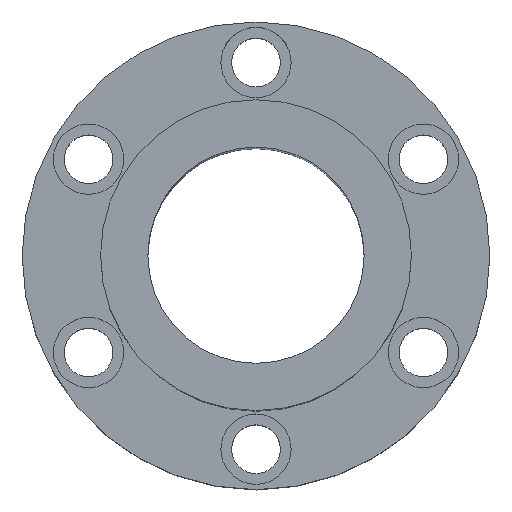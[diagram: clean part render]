
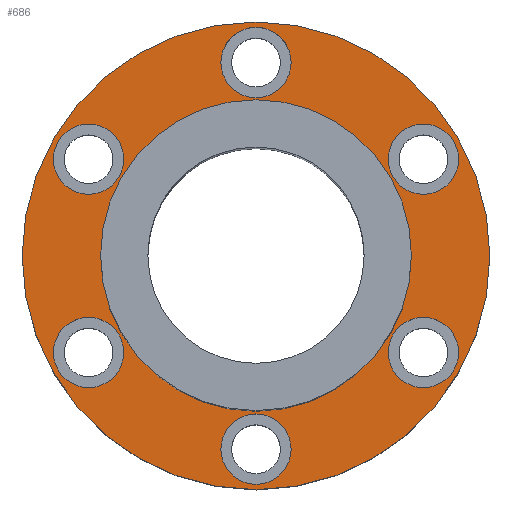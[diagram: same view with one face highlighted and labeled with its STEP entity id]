
A CAD part, top view. The second image highlights one B-rep face of the part: STEP entity #686.
In plain terms, the highlighted planar face has unit normal (0, 0, 1).
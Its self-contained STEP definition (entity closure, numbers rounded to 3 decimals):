
#1=CARTESIAN_POINT('',(0.,0.,33.));
#2=DIRECTION('',(0.,0.,1.));
#3=DIRECTION('',(1.,0.,0.));
#4=AXIS2_PLACEMENT_3D('',#1,#2,#3);
#6=CARTESIAN_POINT('',(0.,0.,33.));
#7=DIRECTION('',(0.,0.,1.));
#8=DIRECTION('',(-1.,0.,0.));
#9=AXIS2_PLACEMENT_3D('',#6,#7,#8);
#11=CARTESIAN_POINT('',(61.921,-35.75,33.));
#12=DIRECTION('',(0.,0.,-1.));
#13=DIRECTION('',(-0.5,-0.866,0.));
#14=AXIS2_PLACEMENT_3D('',#11,#12,#13);
#16=CARTESIAN_POINT('',(61.921,-35.75,33.));
#17=DIRECTION('',(0.,0.,-1.));
#18=DIRECTION('',(0.5,0.866,0.));
#19=AXIS2_PLACEMENT_3D('',#16,#17,#18);
#21=CARTESIAN_POINT('',(-61.921,-35.75,33.));
#22=DIRECTION('',(0.,0.,-1.));
#23=DIRECTION('',(-0.5,0.866,0.));
#24=AXIS2_PLACEMENT_3D('',#21,#22,#23);
#26=CARTESIAN_POINT('',(-61.921,-35.75,33.));
#27=DIRECTION('',(0.,0.,-1.));
#28=DIRECTION('',(0.5,-0.866,0.));
#29=AXIS2_PLACEMENT_3D('',#26,#27,#28);
#31=CARTESIAN_POINT('',(0.,71.5,33.));
#32=DIRECTION('',(0.,0.,-1.));
#33=DIRECTION('',(1.,0.,0.));
#34=AXIS2_PLACEMENT_3D('',#31,#32,#33);
#36=CARTESIAN_POINT('',(0.,71.5,33.));
#37=DIRECTION('',(0.,0.,-1.));
#38=DIRECTION('',(-1.,0.,0.));
#39=AXIS2_PLACEMENT_3D('',#36,#37,#38);
#41=CARTESIAN_POINT('',(0.,0.,33.));
#42=DIRECTION('',(0.,0.,-1.));
#43=DIRECTION('',(1.,0.,0.));
#44=AXIS2_PLACEMENT_3D('',#41,#42,#43);
#46=CARTESIAN_POINT('',(0.,0.,33.));
#47=DIRECTION('',(0.,0.,-1.));
#48=DIRECTION('',(-1.,0.,0.));
#49=AXIS2_PLACEMENT_3D('',#46,#47,#48);
#51=CARTESIAN_POINT('',(-61.921,35.75,33.));
#52=DIRECTION('',(0.,0.,-1.));
#53=DIRECTION('',(0.5,0.866,0.));
#54=AXIS2_PLACEMENT_3D('',#51,#52,#53);
#56=CARTESIAN_POINT('',(-61.921,35.75,33.));
#57=DIRECTION('',(0.,0.,-1.));
#58=DIRECTION('',(-0.5,-0.866,0.));
#59=AXIS2_PLACEMENT_3D('',#56,#57,#58);
#61=CARTESIAN_POINT('',(0.,-71.5,33.));
#62=DIRECTION('',(0.,0.,-1.));
#63=DIRECTION('',(-1.,0.,0.));
#64=AXIS2_PLACEMENT_3D('',#61,#62,#63);
#66=CARTESIAN_POINT('',(0.,-71.5,33.));
#67=DIRECTION('',(0.,0.,-1.));
#68=DIRECTION('',(1.,0.,0.));
#69=AXIS2_PLACEMENT_3D('',#66,#67,#68);
#71=CARTESIAN_POINT('',(61.921,35.75,33.));
#72=DIRECTION('',(0.,0.,-1.));
#73=DIRECTION('',(0.5,-0.866,0.));
#74=AXIS2_PLACEMENT_3D('',#71,#72,#73);
#76=CARTESIAN_POINT('',(61.921,35.75,33.));
#77=DIRECTION('',(0.,0.,-1.));
#78=DIRECTION('',(-0.5,0.866,0.));
#79=AXIS2_PLACEMENT_3D('',#76,#77,#78);
#561=CARTESIAN_POINT('',(-86.5,0.,33.));
#563=VERTEX_POINT('',#561);
#565=CARTESIAN_POINT('',(86.5,0.,33.));
#567=VERTEX_POINT('',#565);
#569=CARTESIAN_POINT('',(13.,71.5,33.));
#571=VERTEX_POINT('',#569);
#573=CARTESIAN_POINT('',(-13.,71.5,33.));
#575=VERTEX_POINT('',#573);
#577=CARTESIAN_POINT('',(-55.421,47.008,33.));
#579=VERTEX_POINT('',#577);
#581=CARTESIAN_POINT('',(-68.421,24.492,33.));
#583=VERTEX_POINT('',#581);
#585=CARTESIAN_POINT('',(-68.421,-24.492,33.));
#587=VERTEX_POINT('',#585);
#589=CARTESIAN_POINT('',(-55.421,-47.008,33.));
#591=VERTEX_POINT('',#589);
#593=CARTESIAN_POINT('',(-13.,-71.5,33.));
#595=VERTEX_POINT('',#593);
#597=CARTESIAN_POINT('',(13.,-71.5,33.));
#599=VERTEX_POINT('',#597);
#601=CARTESIAN_POINT('',(55.421,-47.008,33.));
#603=VERTEX_POINT('',#601);
#605=CARTESIAN_POINT('',(68.421,-24.492,33.));
#607=VERTEX_POINT('',#605);
#609=CARTESIAN_POINT('',(68.421,24.492,33.));
#611=VERTEX_POINT('',#609);
#613=CARTESIAN_POINT('',(55.421,47.008,33.));
#615=VERTEX_POINT('',#613);
#626=CARTESIAN_POINT('',(57.5,0.,33.));
#628=VERTEX_POINT('',#626);
#630=CARTESIAN_POINT('',(-57.5,0.,33.));
#632=VERTEX_POINT('',#630);
#633=CARTESIAN_POINT('',(0.,0.,33.));
#634=DIRECTION('',(0.,0.,1.));
#635=DIRECTION('',(1.,0.,0.));
#636=AXIS2_PLACEMENT_3D('',#633,#634,#635);
#637=PLANE('',#636);
#639=ORIENTED_EDGE('',*,*,#638,.F.);
#641=ORIENTED_EDGE('',*,*,#640,.F.);
#642=EDGE_LOOP('',(#639,#641));
#643=FACE_OUTER_BOUND('',#642,.F.);
#645=ORIENTED_EDGE('',*,*,#644,.F.);
#647=ORIENTED_EDGE('',*,*,#646,.F.);
#648=EDGE_LOOP('',(#645,#647));
#649=FACE_BOUND('',#648,.F.);
#651=ORIENTED_EDGE('',*,*,#650,.F.);
#653=ORIENTED_EDGE('',*,*,#652,.F.);
#654=EDGE_LOOP('',(#651,#653));
#655=FACE_BOUND('',#654,.F.);
#657=ORIENTED_EDGE('',*,*,#656,.F.);
#659=ORIENTED_EDGE('',*,*,#658,.F.);
#660=EDGE_LOOP('',(#657,#659));
#661=FACE_BOUND('',#660,.F.);
#663=ORIENTED_EDGE('',*,*,#662,.F.);
#665=ORIENTED_EDGE('',*,*,#664,.F.);
#666=EDGE_LOOP('',(#663,#665));
#667=FACE_BOUND('',#666,.F.);
#669=ORIENTED_EDGE('',*,*,#668,.F.);
#671=ORIENTED_EDGE('',*,*,#670,.F.);
#672=EDGE_LOOP('',(#669,#671));
#673=FACE_BOUND('',#672,.F.);
#675=ORIENTED_EDGE('',*,*,#674,.F.);
#677=ORIENTED_EDGE('',*,*,#676,.F.);
#678=EDGE_LOOP('',(#675,#677));
#679=FACE_BOUND('',#678,.F.);
#681=ORIENTED_EDGE('',*,*,#680,.F.);
#683=ORIENTED_EDGE('',*,*,#682,.F.);
#684=EDGE_LOOP('',(#681,#683));
#685=FACE_BOUND('',#684,.F.);
#686=ADVANCED_FACE('',(#643,#649,#655,#661,#667,#673,#679,#685),#637,.T.);
#5=CIRCLE('',#4,86.5);
#10=CIRCLE('',#9,86.5);
#15=CIRCLE('',#14,13.);
#20=CIRCLE('',#19,13.);
#25=CIRCLE('',#24,13.);
#30=CIRCLE('',#29,13.);
#35=CIRCLE('',#34,13.);
#40=CIRCLE('',#39,13.);
#45=CIRCLE('',#44,57.5);
#50=CIRCLE('',#49,57.5);
#55=CIRCLE('',#54,13.);
#60=CIRCLE('',#59,13.);
#65=CIRCLE('',#64,13.);
#70=CIRCLE('',#69,13.);
#75=CIRCLE('',#74,13.);
#80=CIRCLE('',#79,13.);
#638=EDGE_CURVE('',#567,#563,#5,.T.);
#640=EDGE_CURVE('',#563,#567,#10,.T.);
#644=EDGE_CURVE('',#603,#607,#15,.T.);
#646=EDGE_CURVE('',#607,#603,#20,.T.);
#650=EDGE_CURVE('',#587,#591,#25,.T.);
#652=EDGE_CURVE('',#591,#587,#30,.T.);
#656=EDGE_CURVE('',#571,#575,#35,.T.);
#658=EDGE_CURVE('',#575,#571,#40,.T.);
#662=EDGE_CURVE('',#628,#632,#45,.T.);
#664=EDGE_CURVE('',#632,#628,#50,.T.);
#668=EDGE_CURVE('',#579,#583,#55,.T.);
#670=EDGE_CURVE('',#583,#579,#60,.T.);
#674=EDGE_CURVE('',#595,#599,#65,.T.);
#676=EDGE_CURVE('',#599,#595,#70,.T.);
#680=EDGE_CURVE('',#611,#615,#75,.T.);
#682=EDGE_CURVE('',#615,#611,#80,.T.);
